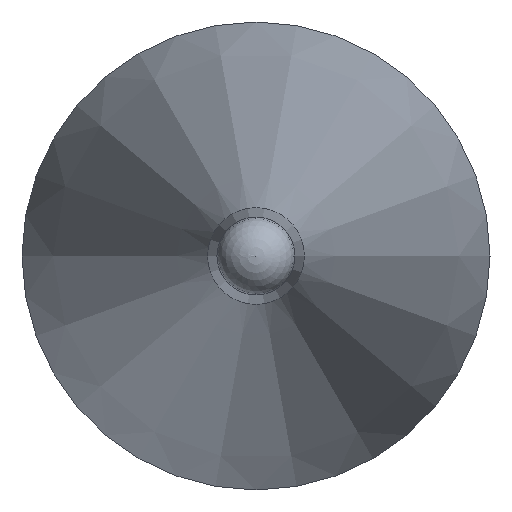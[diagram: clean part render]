
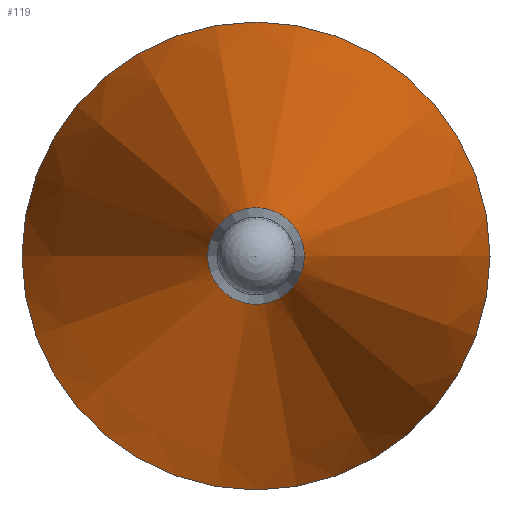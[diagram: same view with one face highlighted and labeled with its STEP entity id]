
A CAD part, left-side view. The second image highlights one B-rep face of the part: STEP entity #119.
In plain terms, the highlighted conical face has half-angle 12 degrees and reference radius 3 mm.
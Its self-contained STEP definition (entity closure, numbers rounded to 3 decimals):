
#97=CONICAL_SURFACE('',#194,3.,12.);
#106=FACE_BOUND('',#134,.T.);
#107=FACE_BOUND('',#135,.T.);
#119=ADVANCED_FACE('',(#106,#107),#97,.T.);
#134=EDGE_LOOP('',(#150));
#135=EDGE_LOOP('',(#151));
#150=ORIENTED_EDGE('',*,*,#172,.F.);
#151=ORIENTED_EDGE('',*,*,#173,.T.);
#164=VERTEX_POINT('',#249);
#165=VERTEX_POINT('',#252);
#172=EDGE_CURVE('',#164,#164,#180,.T.);
#173=EDGE_CURVE('',#165,#165,#181,.T.);
#180=CIRCLE('',#191,0.62);
#181=CIRCLE('',#193,3.);
#191=AXIS2_PLACEMENT_3D('',#248,#215,#216);
#193=AXIS2_PLACEMENT_3D('',#251,#219,#220);
#194=AXIS2_PLACEMENT_3D('',#253,#221,#222);
#215=DIRECTION('',(-1.,0.,0.));
#216=DIRECTION('',(0.,-1.,0.));
#219=DIRECTION('',(-1.,0.,0.));
#220=DIRECTION('',(0.,-1.,0.));
#221=DIRECTION('',(1.,0.,0.));
#222=DIRECTION('',(0.,1.,0.));
#248=CARTESIAN_POINT('',(7903.912,6103.288,0.));
#249=CARTESIAN_POINT('',(7903.912,6102.669,0.));
#251=CARTESIAN_POINT('',(7915.111,6103.288,0.));
#252=CARTESIAN_POINT('',(7915.111,6100.288,0.));
#253=CARTESIAN_POINT('',(7915.111,6103.288,0.));
